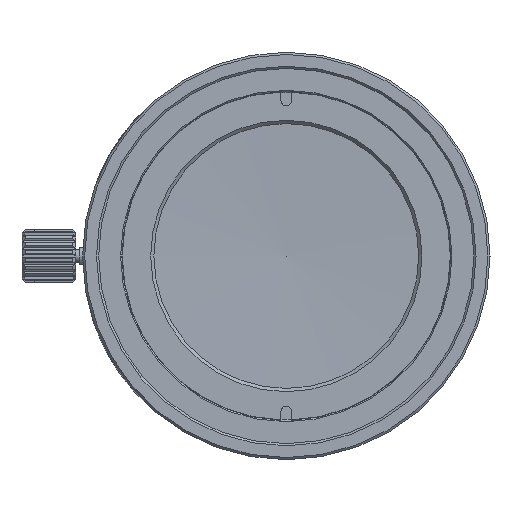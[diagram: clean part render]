
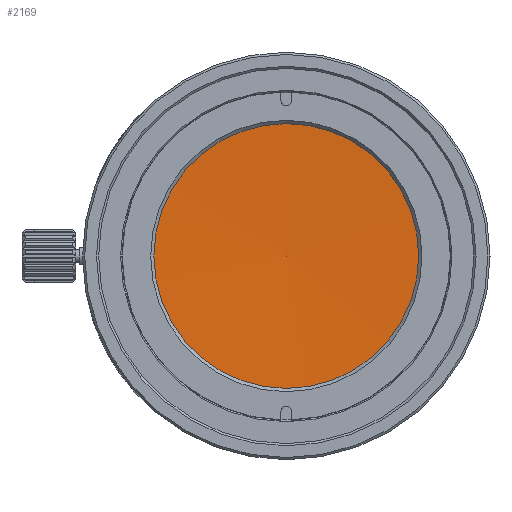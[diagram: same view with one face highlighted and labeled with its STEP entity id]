
A CAD part, left-side view. The second image highlights one B-rep face of the part: STEP entity #2169.
In plain terms, the highlighted spherical face has radius 199.216 mm.
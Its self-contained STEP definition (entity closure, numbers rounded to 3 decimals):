
#74=SPHERICAL_SURFACE('',#16371,199.216);
#2169=ADVANCED_FACE('',(#3561),#74,.F.);
#3561=FACE_OUTER_BOUND('',#4529,.T.);
#4529=EDGE_LOOP('',(#6479));
#6479=ORIENTED_EDGE('',*,*,#12184,.F.);
#10408=VERTEX_POINT('',#24224);
#12184=EDGE_CURVE('',#10408,#10408,#15661,.T.);
#15661=CIRCLE('',#16370,12.349);
#16370=AXIS2_PLACEMENT_3D('',#24223,#18634,#18635);
#16371=AXIS2_PLACEMENT_3D('',#24225,#18636,#18637);
#18634=DIRECTION('',(1.,0.,0.));
#18635=DIRECTION('',(0.,0.,-1.));
#18636=DIRECTION('',(1.,0.,0.));
#18637=DIRECTION('',(0.,1.,0.));
#24223=CARTESIAN_POINT('',(-71.852,0.,0.));
#24224=CARTESIAN_POINT('',(-71.852,0.,-12.349));
#24225=CARTESIAN_POINT('',(-270.685,0.,0.));
